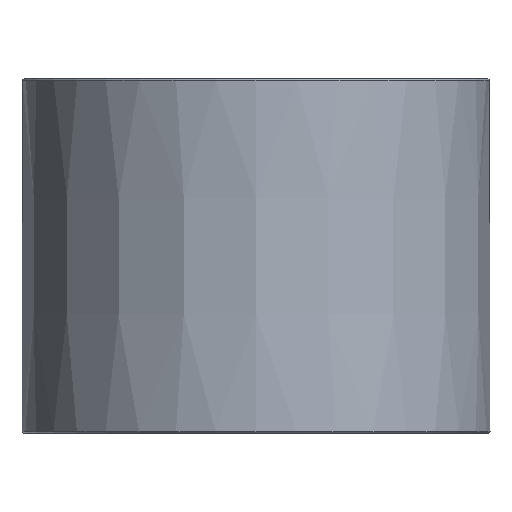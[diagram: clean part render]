
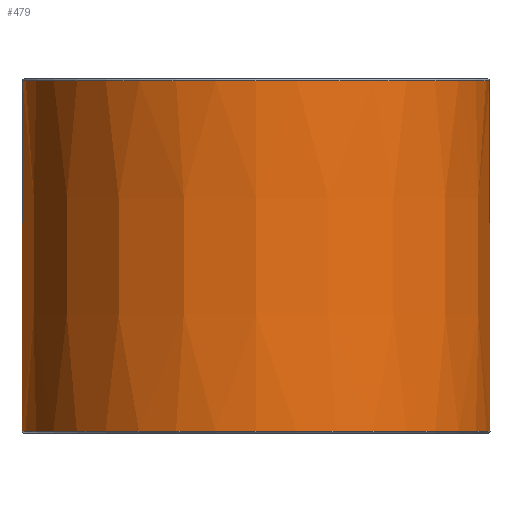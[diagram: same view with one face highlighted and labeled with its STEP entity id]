
A CAD part, front view. The second image highlights one B-rep face of the part: STEP entity #479.
In plain terms, the highlighted conical face has half-angle 0.056 degrees and reference radius 67.7 mm.
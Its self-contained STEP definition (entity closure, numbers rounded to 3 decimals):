
#149=DIRECTION('',(-0.001,0.,-1.));
#150=VECTOR('',#149,101.5);
#151=CARTESIAN_POINT('',(-67.65,0.,
102.));
#152=LINE('',#151,#150);
#164=DIRECTION('',(0.001,0.,-1.));
#165=VECTOR('',#164,101.5);
#166=CARTESIAN_POINT('',(67.65,0.,102.));
#167=LINE('',#166,#165);
#187=CARTESIAN_POINT('',(0.,0.,102.));
#188=DIRECTION('',(0.,0.,-1.));
#189=DIRECTION('',(1.,0.,0.));
#190=AXIS2_PLACEMENT_3D('',#187,#188,#189);
#195=CARTESIAN_POINT('',(0.,0.,0.5));
#196=DIRECTION('',(0.,0.,-1.));
#197=DIRECTION('',(1.,0.,0.));
#198=AXIS2_PLACEMENT_3D('',#195,#196,#197);
#215=CARTESIAN_POINT('',(67.65,0.,102.));
#216=CARTESIAN_POINT('',(-67.65,0.,102.));
#217=VERTEX_POINT('',#215);
#218=VERTEX_POINT('',#216);
#227=CARTESIAN_POINT('',(67.75,0.,0.5));
#228=CARTESIAN_POINT('',(-67.75,0.,0.5));
#229=VERTEX_POINT('',#227);
#230=VERTEX_POINT('',#228);
#468=CARTESIAN_POINT('',(0.,0.,51.25));
#469=DIRECTION('',(0.,0.,-1.));
#470=DIRECTION('',(1.,0.,0.));
#471=AXIS2_PLACEMENT_3D('',#468,#469,#470);
#472=CONICAL_SURFACE('',#471,67.7,0.056);
#473=ORIENTED_EDGE('',*,*,#453,.F.);
#474=ORIENTED_EDGE('',*,*,#415,.T.);
#475=ORIENTED_EDGE('',*,*,#371,.T.);
#476=ORIENTED_EDGE('',*,*,#412,.F.);
#477=EDGE_LOOP('',(#473,#474,#475,#476));
#478=FACE_OUTER_BOUND('',#477,.F.);
#479=ADVANCED_FACE('',(#478),#472,.T.);
#191=CIRCLE('',#190,67.65);
#199=CIRCLE('',#198,67.75);
#371=EDGE_CURVE('',#229,#230,#199,.T.);
#412=EDGE_CURVE('',#218,#230,#152,.T.);
#415=EDGE_CURVE('',#217,#229,#167,.T.);
#453=EDGE_CURVE('',#217,#218,#191,.T.);
